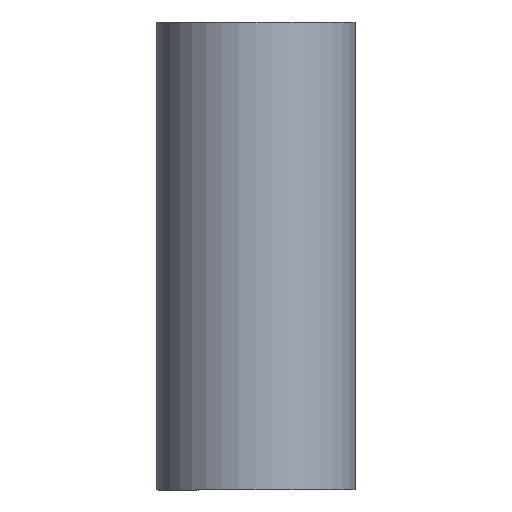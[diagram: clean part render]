
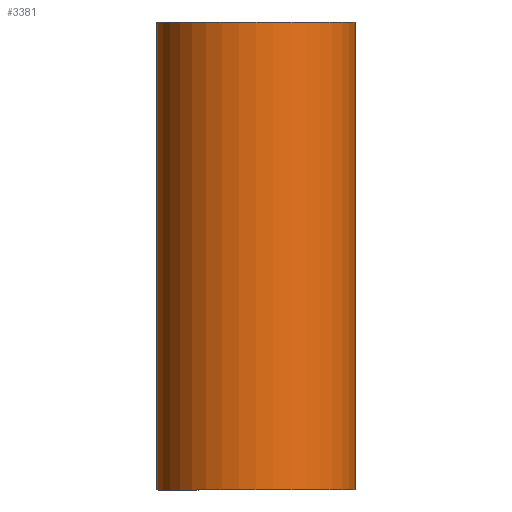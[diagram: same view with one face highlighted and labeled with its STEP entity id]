
A CAD part, front view. The second image highlights one B-rep face of the part: STEP entity #3381.
In plain terms, the highlighted cylindrical face has radius 31.5 mm (diameter 63 mm), a partial arc.
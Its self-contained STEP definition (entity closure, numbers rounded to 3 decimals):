
#407=FACE_OUTER_BOUND('',#619,.T.);
#619=EDGE_LOOP('',(#3099,#3100,#3101,#3102));
#947=LINE('',#5811,#1275);
#948=LINE('',#5814,#1276);
#1275=VECTOR('',#4751,304.8);
#1276=VECTOR('',#4754,304.8);
#1413=CIRCLE('',#3739,31.5);
#1415=CIRCLE('',#3743,31.5);
#1710=VERTEX_POINT('',#5802);
#1711=VERTEX_POINT('',#5804);
#1712=VERTEX_POINT('',#5810);
#1713=VERTEX_POINT('',#5812);
#2172=EDGE_CURVE('',#1711,#1710,#1413,.T.);
#2175=EDGE_CURVE('',#1712,#1710,#947,.T.);
#2176=EDGE_CURVE('',#1713,#1712,#1415,.T.);
#2177=EDGE_CURVE('',#1711,#1713,#948,.T.);
#3099=ORIENTED_EDGE('',*,*,#2175,.F.);
#3100=ORIENTED_EDGE('',*,*,#2176,.F.);
#3101=ORIENTED_EDGE('',*,*,#2177,.F.);
#3102=ORIENTED_EDGE('',*,*,#2172,.T.);
#3177=CYLINDRICAL_SURFACE('',#3742,31.5);
#3381=ADVANCED_FACE('',(#407),#3177,.T.);
#3739=AXIS2_PLACEMENT_3D('',#5805,#4742,#4743);
#3742=AXIS2_PLACEMENT_3D('',#5809,#4749,#4750);
#3743=AXIS2_PLACEMENT_3D('',#5813,#4752,#4753);
#4742=DIRECTION('center_axis',(0.,0.,1.));
#4743=DIRECTION('ref_axis',(-1.,0.,0.));
#4749=DIRECTION('center_axis',(0.,0.,1.));
#4750=DIRECTION('ref_axis',(-1.,0.,0.));
#4751=DIRECTION('',(0.,0.,-1.));
#4752=DIRECTION('center_axis',(0.,0.,1.));
#4753=DIRECTION('ref_axis',(-1.,0.,0.));
#4754=DIRECTION('',(0.,0.,1.));
#5802=CARTESIAN_POINT('',(-31.5,0.,-22.277));
#5804=CARTESIAN_POINT('',(31.5,0.,-22.277));
#5805=CARTESIAN_POINT('Origin',(0.,0.,
-22.277));
#5809=CARTESIAN_POINT('Origin',(0.,0.,
103.924));
#5810=CARTESIAN_POINT('',(-31.5,0.,126.223));
#5811=CARTESIAN_POINT('',(-31.5,0.,126.223));
#5812=CARTESIAN_POINT('',(31.5,0.,126.223));
#5813=CARTESIAN_POINT('Origin',(0.,0.,
126.223));
#5814=CARTESIAN_POINT('',(31.5,0.,-22.277));
